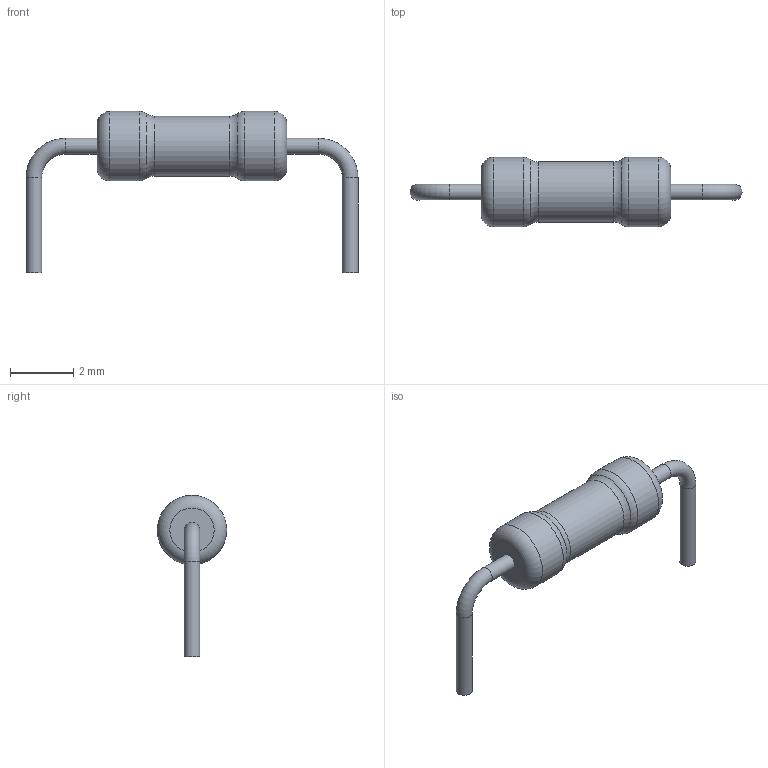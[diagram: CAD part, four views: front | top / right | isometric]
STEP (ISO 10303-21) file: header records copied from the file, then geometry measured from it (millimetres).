
FILE_DESCRIPTION(('STEP AP203'), '1');
FILE_NAME('R1-72-0.25(1)', '', ('UNSPECIFIED'), ('UNSPECIFIED'), 'ASCON STEP Converter 1.6', 'ASCON Math Kernel', '');
FILE_SCHEMA(('CONFIG_CONTROL_DESIGN'));
Length unit declared in the file: millimetre
Bounding box: 10.5 x 2.2 x 5.1 mm (x, y, z)
Volume: 21.8 mm3; surface area: 61.8 mm2
Topology: 1 solids, 1 shells, 19 faces, 33 edges, 18 vertices
Faces by surface type: torus 8, cylinder 7, plane 4
Full cylindrical faces by diameter (mm): 0.5 x4, 1.9 x1, 2.2 x2
Entity records: 570 total; most frequent: DIRECTION 76, CARTESIAN_POINT 56, AXIS2_PLACEMENT_3D 38, EDGE_LOOP 36, ORIENTED_EDGE 36, FACE_OUTER_BOUND 30, COLOUR_RGB 20, FILL_AREA_STYLE_COLOUR 20
